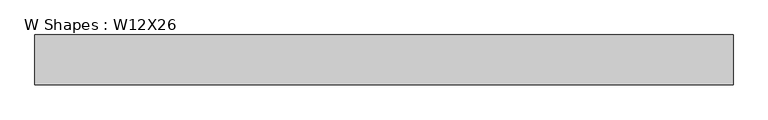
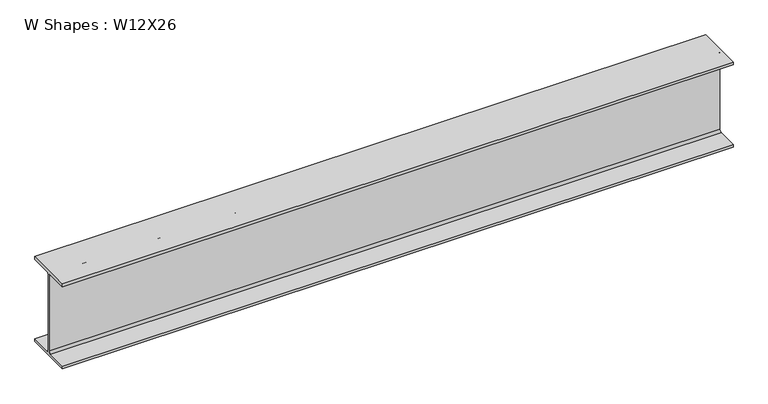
"""IFC4 building model written with IfcOpenShell, lengths in millimetres: beam geometry, W Shapes : W12X26."""

from ifc_helpers import new_model, si_unit, point, frame, frame_2d, origin, place, context, project, spatial, polyline, circle_curve, trimmed, segment, composite_curve, outline, extrude, source, transform, mapped, element, save


def w_shapes_w12x26_ac08b433(model_context):
    return source(origin(), model_context, "Body", "SweptSolid", [
        extrude(outline(composite_curve([segment(polyline([(82.423, -145.288), (82.423, -154.94), (-82.423, -154.94), (-82.423, -145.288), (-10.541, -145.288)]), True, "CONTINUOUS"), segment(trimmed(circle_curve(frame_2d((-10.541, -137.668)), 7.62), [point((-10.541, -145.288))], [point((-2.921, -137.668))], True, "CARTESIAN"), True, "CONTINUOUS"), segment(polyline([(-2.921, -137.668), (-2.921, 137.668)]), True, "CONTINUOUS"), segment(trimmed(circle_curve(frame_2d((-10.541, 137.668)), 7.62), [point((-2.921, 137.668))], [point((-10.541, 145.288))], True, "CARTESIAN"), True, "CONTINUOUS"), segment(polyline([(-10.541, 145.288), (-82.423, 145.288), (-82.423, 154.94), (82.423, 154.94), (82.423, 145.288), (10.541, 145.288)]), True, "CONTINUOUS"), segment(trimmed(circle_curve(frame_2d((10.541, 137.668)), 7.62), [point((10.541, 145.288))], [point((2.921, 137.668))], True, "CARTESIAN"), True, "CONTINUOUS"), segment(polyline([(2.921, 137.668), (2.921, -137.668)]), True, "CONTINUOUS"), segment(trimmed(circle_curve(frame_2d((10.541, -137.668)), 7.62), [point((2.921, -137.668))], [point((10.541, -145.288))], True, "CARTESIAN"), True, "CONTINUOUS"), segment(polyline([(10.541, -145.288), (82.423, -145.288)]), True, "CONTINUOUS")], self_intersect=False)), frame((-1157.2875, 0.0, 0.0), z_axis=(1.0, 0.0, 0.0), x_axis=(0.0, 1.0, 0.0)), (0.0, 0.0, 1.0), 2314.575),
    ])


if __name__ == "__main__":
    model = new_model("IFC4")
    model_context = context("Model", 3, world=origin())
    ifc_project = project(units=[si_unit("LENGTHUNIT", "METRE", prefix="MILLI")], contexts=[model_context])
    site = spatial("IfcSite", under=ifc_project)
    building = spatial("IfcBuilding", under=site)
    placement = place(None, origin())
    w_shapes_w12x26_shape = w_shapes_w12x26_ac08b433(model_context)
    element("IfcBeam", 1, ObjectType="W Shapes : W12X26", at=placement, inside=building, context=model_context, shape_type="MappedRepresentation", body=[
        mapped(w_shapes_w12x26_shape, transform((0.0, 0.0, 0.0), x_axis=(1.0, 0.0, 0.0), y_axis=(0.0, 1.0, 0.0), z_axis=(0.0, 0.0, 1.0))),
    ])
    save(model, "model.ifc")
